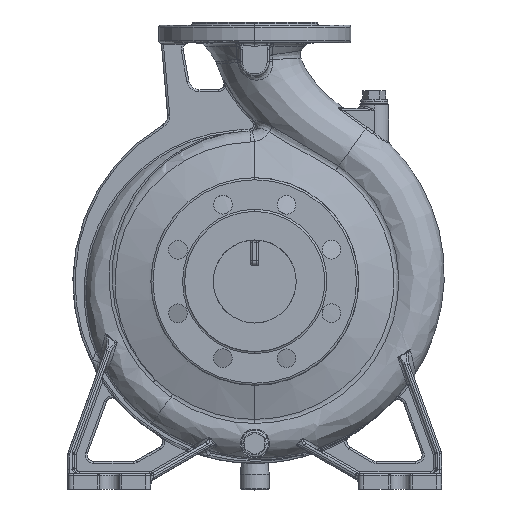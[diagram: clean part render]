
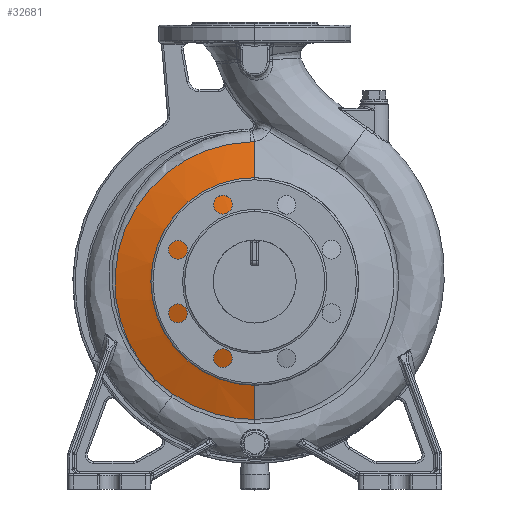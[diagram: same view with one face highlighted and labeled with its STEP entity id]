
A CAD part, top view. The second image highlights one B-rep face of the part: STEP entity #32681.
In plain terms, the highlighted conical face has half-angle 72 degrees and reference radius 103.164 mm.
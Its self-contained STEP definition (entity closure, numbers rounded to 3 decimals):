
#11677=CARTESIAN_POINT('',(-78.81,-108.317,
24.222));
#11678=CARTESIAN_POINT('',(-74.177,-111.494,
24.272));
#11679=CARTESIAN_POINT('',(-64.543,-117.285,
24.364));
#11680=CARTESIAN_POINT('',(-49.126,-124.188,
24.467));
#11681=CARTESIAN_POINT('',(-33.093,-129.161,
24.537));
#11682=CARTESIAN_POINT('',(-16.608,-132.145,
24.585));
#11683=CARTESIAN_POINT('',(-5.528,-132.783,
24.602));
#11684=CARTESIAN_POINT('',(0.,-132.77,
24.606));
#11689=CARTESIAN_POINT('',(-95.541,-94.861,
24.));
#11690=CARTESIAN_POINT('',(-92.923,-97.331,
24.038));
#11691=CARTESIAN_POINT('',(-87.505,-102.052,
24.113));
#11692=CARTESIAN_POINT('',(-81.756,-106.311,
24.185));
#11693=CARTESIAN_POINT('',(-78.81,-108.317,
24.222));
#11698=CARTESIAN_POINT('',(0.,0.,24.));
#11699=DIRECTION('',(0.,0.,-1.));
#11700=DIRECTION('',(-0.71,-0.705,0.));
#11701=AXIS2_PLACEMENT_3D('',#11698,#11699,#11700);
#11706=CARTESIAN_POINT('',(-3.977,134.576,
24.));
#11707=CARTESIAN_POINT('',(-3.294,134.597,
24.));
#11708=CARTESIAN_POINT('',(-1.949,134.691,
23.979));
#11709=CARTESIAN_POINT('',(-0.644,134.886,
23.919));
#11710=CARTESIAN_POINT('',(0.,135.009,
23.879));
#11715=DIRECTION('',(0.,-0.951,0.309));
#11716=VECTOR('',#11715,66.966);
#11717=CARTESIAN_POINT('',(0.,135.009,
23.879));
#11718=LINE('',#11717,#11716);
#11722=CARTESIAN_POINT('',(0.,0.,44.573));
#11723=DIRECTION('',(0.,0.,-1.));
#11724=DIRECTION('',(0.,-1.,0.));
#11725=AXIS2_PLACEMENT_3D('',#11722,#11723,#11724);
#11730=DIRECTION('',(0.,0.951,0.309));
#11731=VECTOR('',#11730,64.613);
#11732=CARTESIAN_POINT('',(0.,-132.77,
24.606));
#11733=LINE('',#11732,#11731);
#11737=CARTESIAN_POINT('',(0.,-132.77,
24.606));
#15200=CARTESIAN_POINT('',(0.,-71.32,
44.573));
#15201=CARTESIAN_POINT('',(0.,71.32,44.573));
#15202=VERTEX_POINT('',#15200);
#15203=VERTEX_POINT('',#15201);
#15204=CARTESIAN_POINT('',(0.,135.009,
23.879));
#15205=VERTEX_POINT('',#15204);
#15208=VERTEX_POINT('',#11737);
#15213=VERTEX_POINT('',#11677);
#15533=VERTEX_POINT('',#11689);
#15538=CARTESIAN_POINT('',(-3.977,134.577,
24.));
#15539=VERTEX_POINT('',#15538);
#32664=CARTESIAN_POINT('',(0.,0.,34.226));
#32665=DIRECTION('',(0.,0.,-1.));
#32666=DIRECTION('',(0.,-1.,0.));
#32667=AXIS2_PLACEMENT_3D('',#32664,#32665,#32666);
#32668=CONICAL_SURFACE('',#32667,103.164,72.);
#32669=ORIENTED_EDGE('',*,*,#20793,.F.);
#32670=ORIENTED_EDGE('',*,*,#20825,.F.);
#32671=ORIENTED_EDGE('',*,*,#32542,.T.);
#32672=ORIENTED_EDGE('',*,*,#32658,.T.);
#32674=ORIENTED_EDGE('',*,*,#32673,.T.);
#32676=ORIENTED_EDGE('',*,*,#32675,.F.);
#32678=ORIENTED_EDGE('',*,*,#32677,.F.);
#32679=EDGE_LOOP('',(#32669,#32670,#32671,#32672,#32674,#32676,#32678));
#32680=FACE_OUTER_BOUND('',#32679,.F.);
#11685=B_SPLINE_CURVE_WITH_KNOTS('',3,(#11677,#11678,#11679,#11680,#11681,
#11682,#11683,#11684),.UNSPECIFIED.,.F.,.F.,(4,1,1,1,1,4),(0.,0.2,0.4,
0.6,0.8,1.),.UNSPECIFIED.);
#11694=B_SPLINE_CURVE_WITH_KNOTS('',3,(#11689,#11690,#11691,#11692,#11693),
.UNSPECIFIED.,.F.,.F.,(4,1,4),(0.,0.5,1.),.UNSPECIFIED.);
#11702=CIRCLE('',#11701,134.635);
#11711=B_SPLINE_CURVE_WITH_KNOTS('',3,(#11706,#11707,#11708,#11709,#11710),
.UNSPECIFIED.,.F.,.F.,(4,1,4),(0.,0.5,1.),.UNSPECIFIED.);
#11726=CIRCLE('',#11725,71.32);
#20793=EDGE_CURVE('',#15213,#15208,#11685,.T.);
#20825=EDGE_CURVE('',#15533,#15213,#11694,.T.);
#32542=EDGE_CURVE('',#15533,#15539,#11702,.T.);
#32658=EDGE_CURVE('',#15539,#15205,#11711,.T.);
#32673=EDGE_CURVE('',#15205,#15203,#11718,.T.);
#32675=EDGE_CURVE('',#15202,#15203,#11726,.T.);
#32677=EDGE_CURVE('',#15208,#15202,#11733,.T.);
#32681=ADVANCED_FACE('',(#32680),#32668,.T.);
